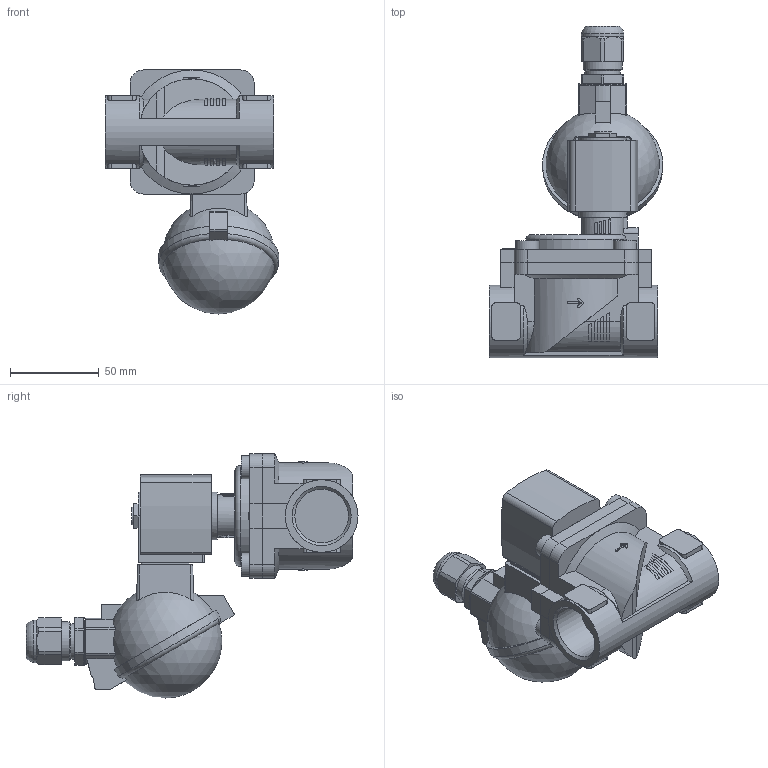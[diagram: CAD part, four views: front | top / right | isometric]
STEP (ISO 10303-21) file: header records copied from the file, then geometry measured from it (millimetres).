
FILE_DESCRIPTION(/* description */ ('STEP AP214'),/* implementation_level */ '2;1');
FILE_NAME(/* name */ '6281-373821-2_2-Way_Solenoid_Valve__Servo-assisted__General_Purpose',/* time_stamp */ '2024-08-28T21:35:22+02:00',/* author */ ('License CC BY-ND 4.0'),/* organization */ ('CADENAS'),/* preprocessor_version */ 'ST-DEVELOPER v19.3',/* originating_system */ 'PARTsolutions',/* authorisation */ ' ');
FILE_SCHEMA (('AUTOMOTIVE_DESIGN {1 0 10303 214 3 1 1}'));
Length unit declared in the file: millimetre
Products named in the file (4): 6281-373821-2/2-Way Solenoid Valve, Servo-assisted, General Purpose; 5281ev250VA2/2-Wege-Magnetventil mit Servomembran-Deckel   ; 6213-25G1VA-Gehaeuse-; AC10ex-6ATEXKLK_MB05Plan-Coil
Assembly tree (3 placements, depth 2):
  6281-373821-2/2-Way Solenoid Valve, Servo-assisted, General Purpose
    5281ev250VA2/2-Wege-Magnetventil mit Servomembran-Deckel   
    6213-25G1VA-Gehaeuse-
    AC10ex-6ATEXKLK_MB05Plan-Coil
Bounding box: 97.93 x 187.3 x 137.7 mm (x, y, z)
Volume: 492738.1 mm3; surface area: 78343.5 mm2
Topology: 3 solids, 3 shells, 395 faces, 1052 edges, 692 vertices
Faces by surface type: plane 245, cylinder 115, cone 27, torus 4, sphere 4
Full cylindrical faces by diameter (mm): 3.242 x1, 9.74 x1, 13 x4, 14 x1, 17.294 x1, 20 x1, 22 x1, 23 x1, 24 x1, 27 x2, 30.291 x2, 41 x1
Entity records: 13844 total; most frequent: CARTESIAN_POINT 2442, DIRECTION 2050, ORIENTED_EDGE 2020, EDGE_CURVE 1010, AXIS2_PLACEMENT_3D 736, VERTEX_POINT 678, LINE 578, VECTOR 578
